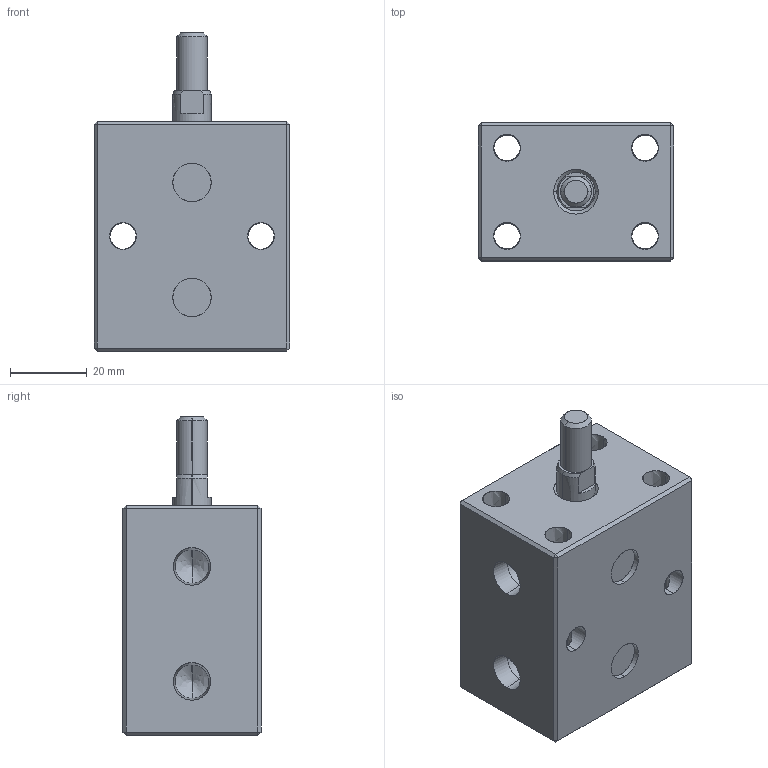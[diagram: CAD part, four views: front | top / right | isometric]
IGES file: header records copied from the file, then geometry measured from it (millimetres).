
Start section: SolidWorks IGES file using analytic representation for surfaces
Global section: file name: E:\ALL-SSVT-BLOCK\IGS-MODEL\BC04-16-16-M.IGS; native system: SolidWorks 2019; preprocessor: SolidWorks 2019; author: SSVT; date: 210823.153353; units: millimetre
Bounding box: 51 x 36 x 83 mm (x, y, z)
Surface area: 23371.5 mm2 (no closed solid volume)
Topology: 0 solids, 0 shells, 92 faces, 1651 edges, 1647 vertices
Faces by surface type: revolution 57, bspline 35
